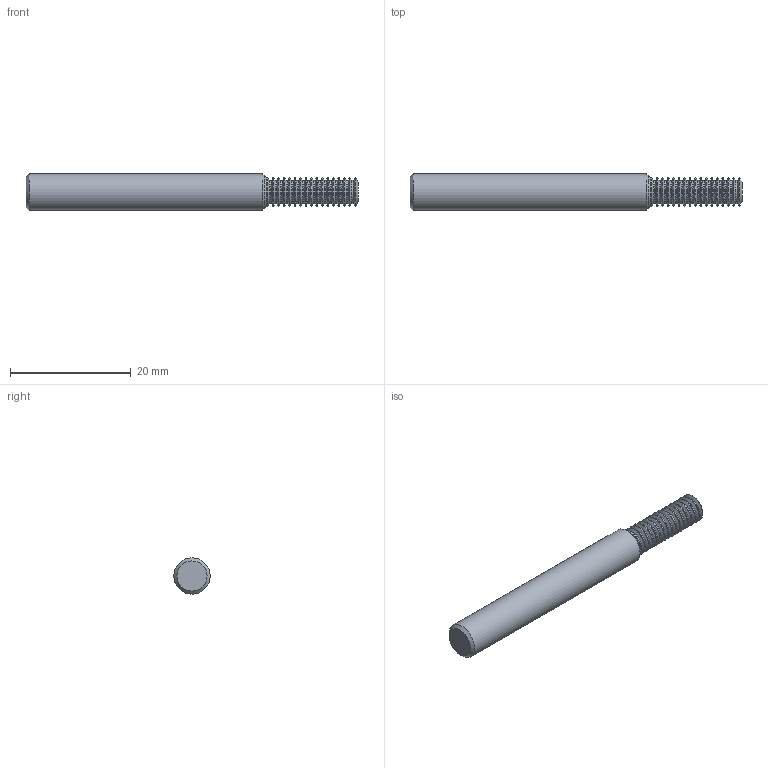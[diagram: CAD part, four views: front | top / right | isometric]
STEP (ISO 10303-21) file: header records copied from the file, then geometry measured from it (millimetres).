
FILE_DESCRIPTION(/* description */ (''),/* implementation_level */ '2;1');
FILE_NAME(/* name */ '00032654-TDM',/* time_stamp */ '2024-02-20T15:09:15+01:00',/* author */ (''),/* organization */ (''),/* preprocessor_version */ 'ST-DEVELOPER v16.5',/* originating_system */ 'HiCAD 2017 2201.0 Build 268',/* authorisation */ '');
FILE_SCHEMA (('AUTOMOTIVE_DESIGN { 1 0 10303 214 1 1 1 1 }'));
Length unit declared in the file: millimetre
Products named in the file (3): Root; ROTATIONSTEIL_0
Assembly tree (2 placements, depth 3):
  Root
    ROTATIONSTEIL_0
      ROTATIONSTEIL_0
Bounding box: 55 x 6 x 6 mm (x, y, z)
Volume: 1330.8 mm3; surface area: 1153.4 mm2
Topology: 2 solids, 2 shells, 107 faces, 210 edges, 107 vertices
Faces by surface type: torus 49, cone 36, cylinder 18, plane 4
Full cylindrical faces by diameter (mm): 3.818 x16, 4.8 x1, 6 x1
Entity records: 3234 total; most frequent: DIRECTION 432, CARTESIAN_POINT 321, AXIS2_PLACEMENT_3D 216, PRESENTATION_STYLE_ASSIGNMENT 212, COLOUR_RGB 212, DRAUGHTING_PRE_DEFINED_CURVE_FONT 210, CURVE_STYLE 210, OVER_RIDING_STYLED_ITEM 210
